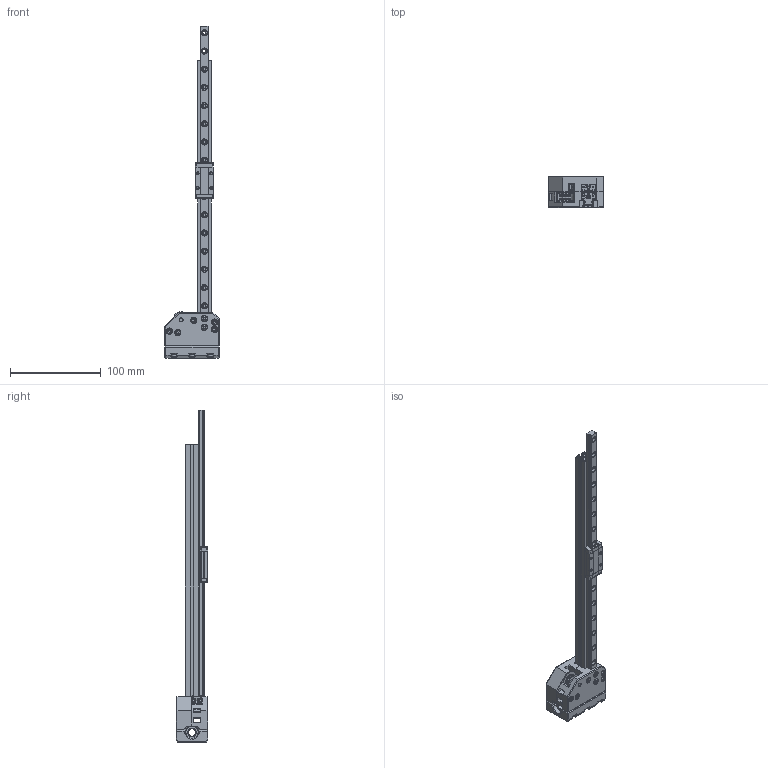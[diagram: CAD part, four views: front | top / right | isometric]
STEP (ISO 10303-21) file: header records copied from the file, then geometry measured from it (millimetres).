
FILE_DESCRIPTION(/* description */ ('FreeCAD Model'),/* implementation_level */ '2;1');
FILE_NAME(/* name */ 'Proosa MGN9 Y-carriers - LM8UU + STD idlers.step',/* time_stamp */ '2026-07-08T19:01:19+02:00',/* author */ (''),/* organization */ (''),/* preprocessor_version */ 'ST-DEVELOPER v20.1',/* originating_system */ 'Autodesk Translation Framework v15.8.0.0',/* authorisation */ '');
FILE_SCHEMA (('AUTOMOTIVE_DESIGN { 1 0 10303 214 3 1 1 }'));
Products named in the file (27): y-carrier-common; 1515 with MGN9H; HIWIN MGN09H1R315Z0HM; MGNR09R315HM; MGN09HZ0HM; 103172; Hardware; Screws; socket head cap screw_am_B18.3.1M - 3 x 0.5 x 30 Hex SHCS -- 18NHX; M3x14-Screw089; VITE_TESTA_BOMBATA_ESAGONO_INCASSATO; M5x30-Screw004; Heat inserts; Knurled Insert M3xH4; Componente4; Dowel pins; M3x16 dowel pin; Nuts; M3-Nut078; Bearings; F623RS bearing stack; flat washer narrow_am_B18.22M - Plain washer, 3 mm, narrow; F623ZZ Flange Bearing; POWGE 2GT pulley 20T B5; 3.Linear Bearing-LM8UU; Pulleys; y-carrier-cap004
Assembly tree (53 placements, depth 4):
  y-carrier-common
    1515 with MGN9H
      HIWIN MGN09H1R315Z0HM
        MGNR09R315HM
        MGN09HZ0HM
      103172
    Hardware
      Screws
        socket head cap screw_am_B18.3.1M - 3 x 0.5 x 30 Hex SHCS -- 18NHX  x5
        M3x14-Screw089  x6
        VITE_TESTA_BOMBATA_ESAGONO_INCASSATO  x4
        M5x30-Screw004
      Heat inserts
        Knurled Insert M3xH4  x11
      Componente4
      Dowel pins
        M3x16 dowel pin
      Nuts
        M3-Nut078  x4
    Bearings
      F623RS bearing stack
        flat washer narrow_am_B18.22M - Plain washer, 3 mm, narrow
        F623ZZ Flange Bearing  x2
      POWGE 2GT pulley 20T B5
      3.Linear Bearing-LM8UU  x2
    Pulleys
    y-carrier-cap004
Bounding box: 60 x 35 x 364.95 mm (x, y, z)
Volume: 135530.2 mm3; surface area: 103160.6 mm2
Topology: 48 solids, 48 shells, 3460 faces, 8878 edges, 5592 vertices
Faces by surface type: plane 1411, cylinder 1112, bspline 690, cone 210, torus 36, sphere 1
Full cylindrical faces by diameter (mm): 1.4 x8, 1.471 x52, 1.868 x56, 2 x1, 2.459 x15, 2.529 x20, 3 x18, 3.086 x16, 3.15 x2, 3.2 x14, 3.3 x12, 3.5 x16, 3.68 x1, 3.734 x22, 4 x11, 4.4 x2, 4.95 x1, 5 x4, 5.4 x4, 5.5 x11, 6 x27, 7.9 x4, 8 x2, 8.2 x2, 8.5 x1, 9 x6, 10 x3, 11.5 x2, 14 x4, 14.387 x4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
Entity records: 122399 total; most frequent: CARTESIAN_POINT 70126, ORIENTED_EDGE 11374, DIRECTION 10116, EDGE_CURVE 5687, VERTEX_POINT 3741, AXIS2_PLACEMENT_3D 3643, LINE 2830, VECTOR 2830
